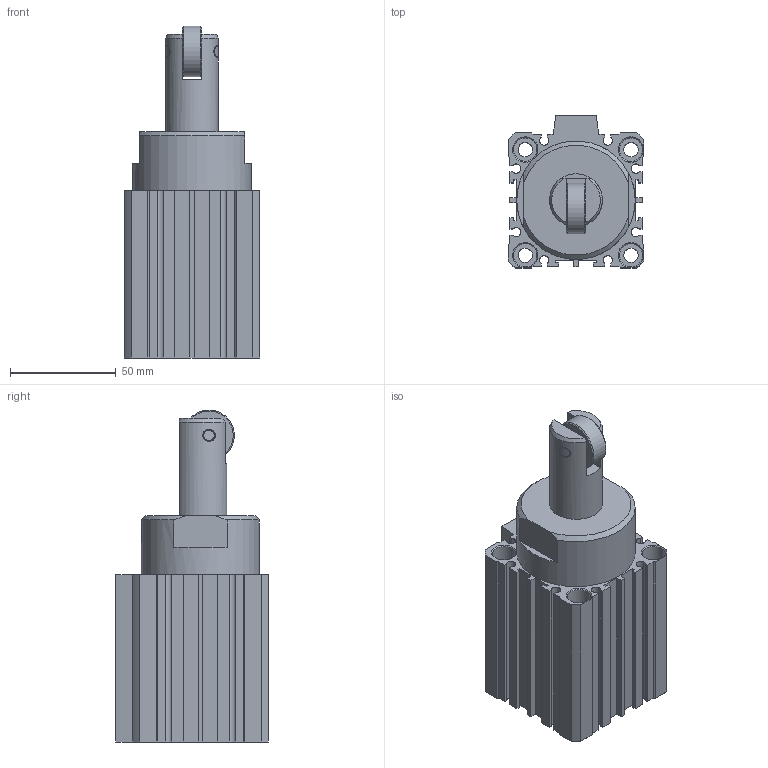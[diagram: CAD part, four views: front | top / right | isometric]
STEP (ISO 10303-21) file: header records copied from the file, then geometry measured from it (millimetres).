
FILE_DESCRIPTION((''),'2;1');
FILE_NAME('I:\3D電子目錄\氣缸\STC\STC\STC50\STC50x25.stp','2007-09-19T15:40:44',('Administrator'),(''),'Autodesk Inventor 11','Autodesk Inventor 11','');
FILE_SCHEMA(('AUTOMOTIVE_DESIGN { 1 0 10303 214 1 1 1 1 }'));
Length unit declared in the file: millimetre
Products named in the file (1): STC50
Bounding box: 64 x 72 x 157 mm (x, y, z)
Volume: 366519.2 mm3; surface area: 60396.3 mm2
Topology: 2 solids, 2 shells, 184 faces, 475 edges, 309 vertices
Faces by surface type: plane 118, cylinder 40, cone 20, bspline 5, torus 1
Full cylindrical faces by diameter (mm): 2.7 x2, 5 x2, 5.2 x2, 6.8 x4, 11 x8, 24 x1, 37 x1, 52 x2, 55 x1, 56 x1
Entity records: 5919 total; most frequent: CARTESIAN_POINT 1611, DIRECTION 866, ORIENTED_EDGE 836, EDGE_CURVE 418, VECTOR 296, LINE 296, VERTEX_POINT 295, AXIS2_PLACEMENT_3D 285
